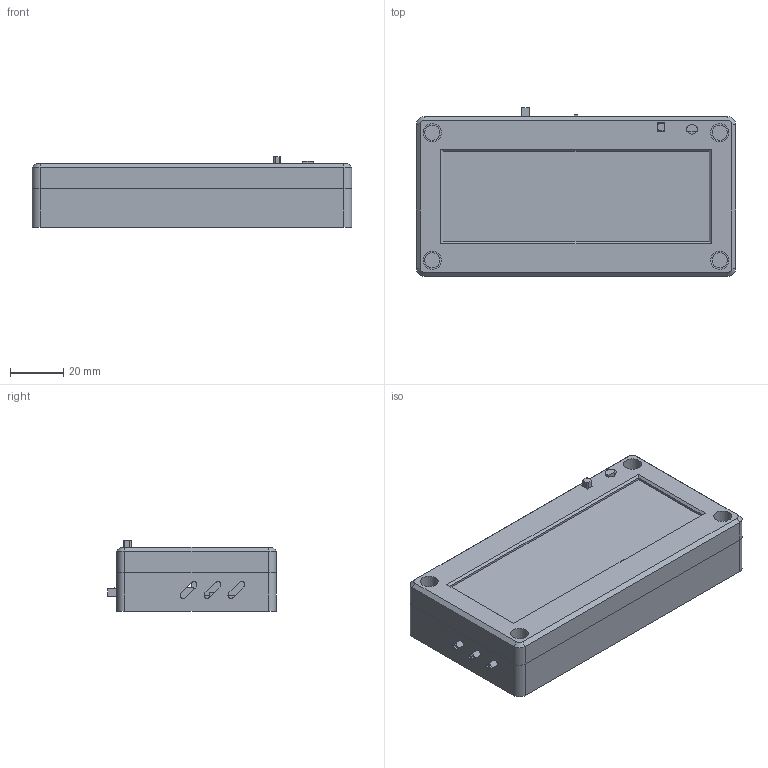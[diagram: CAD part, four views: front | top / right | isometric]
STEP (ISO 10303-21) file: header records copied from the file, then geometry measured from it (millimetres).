
FILE_DESCRIPTION(/* description */ (''),/* implementation_level */ '2;1');
FILE_NAME(/* name */ 'little-on-air-v212-assembly.step',/* time_stamp */ '2026-09-13T15:56:28-07:00',/* author */ (''),/* organization */ (''),/* preprocessor_version */ 'ST-DEVELOPER v20.2',/* originating_system */ 'Autodesk Translation Framework v15.15.0.0',/* authorisation */ '');
FILE_SCHEMA (('AUTOMOTIVE_DESIGN { 1 0 10303 214 3 1 1 }'));
Length unit declared in the file: centimetre
Products named in the file (22): (Unsaved); 01 Front optical bezel; 02 Clear acrylic; 03 Registered graphic backing; 04 Optical retainer; REF Four LEDs; REF Charger; REF SPDT power switch; REF SPDT moving lever; REF DPDT; REF DPDT moving actuator; REF XIAO; 05 Rear electronics housing; 06 Electronics retaining yoke; 07 Front guided reset button; REF Battery; REF Capacitor; REF M3 screws; REF M3 nuts; 08 Front RGB light guide; 09 Upper charger light guide; 10 Lower charger light guide
Assembly tree (21 placements, depth 2):
  (Unsaved)
    01 Front optical bezel
    02 Clear acrylic
    03 Registered graphic backing
    04 Optical retainer
    REF Four LEDs
    REF Charger
    REF SPDT power switch
    REF SPDT moving lever
    REF DPDT
    REF DPDT moving actuator
    REF XIAO
    05 Rear electronics housing
    06 Electronics retaining yoke
    07 Front guided reset button
    REF Battery
    REF Capacitor
    REF M3 screws
    REF M3 nuts
    08 Front RGB light guide
    09 Upper charger light guide
    10 Lower charger light guide
Bounding box: 120 x 63.4 x 26.5 mm (x, y, z)
Volume: 86663.8 mm3; surface area: 80176.1 mm2
Topology: 60 solids, 60 shells, 1693 faces, 4507 edges, 2998 vertices
Faces by surface type: plane 1602, cylinder 87, cone 4
Full cylindrical faces by diameter (mm): 3 x8, 3.01 x8, 3.2 x3, 3.6 x24, 5.7 x8, 6.8 x4, 8 x1
Entity records: 52509 total; most frequent: CARTESIAN_POINT 9241, ORIENTED_EDGE 9014, DIRECTION 8159, EDGE_CURVE 4507, LINE 4327, VECTOR 4327, VERTEX_POINT 2998, AXIS2_PLACEMENT_3D 1916
